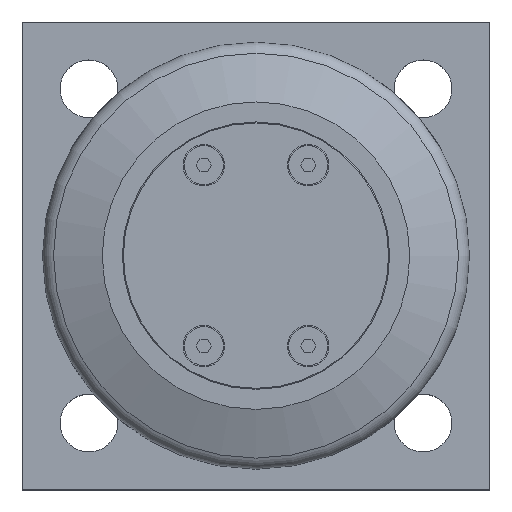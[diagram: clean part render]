
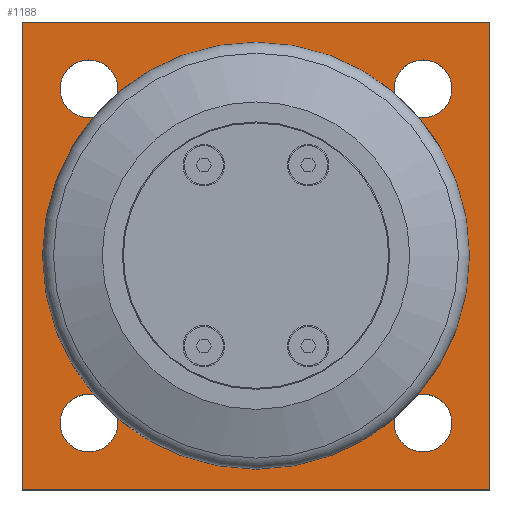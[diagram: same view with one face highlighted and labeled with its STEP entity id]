
A CAD part, top view. The second image highlights one B-rep face of the part: STEP entity #1188.
In plain terms, the highlighted planar face has unit normal (0, 0, 1).
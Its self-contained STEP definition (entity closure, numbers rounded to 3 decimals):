
#37=FACE_BOUND('',#262,.T.);
#38=FACE_BOUND('',#263,.T.);
#39=FACE_BOUND('',#264,.T.);
#40=FACE_BOUND('',#265,.T.);
#41=FACE_BOUND('',#266,.T.);
#92=CIRCLE('',#1321,39.5);
#93=CIRCLE('',#1323,8.647);
#94=CIRCLE('',#1324,8.647);
#95=CIRCLE('',#1325,8.647);
#96=CIRCLE('',#1326,8.647);
#97=CIRCLE('',#1327,8.647);
#98=CIRCLE('',#1328,8.647);
#99=CIRCLE('',#1329,8.647);
#100=CIRCLE('',#1330,8.647);
#178=FACE_OUTER_BOUND('',#261,.T.);
#261=EDGE_LOOP('',(#1027,#1028,#1029,#1030));
#262=EDGE_LOOP('',(#1031,#1032));
#263=EDGE_LOOP('',(#1033,#1034));
#264=EDGE_LOOP('',(#1035,#1036));
#265=EDGE_LOOP('',(#1037,#1038));
#266=EDGE_LOOP('',(#1039));
#367=LINE('',#2015,#470);
#368=LINE('',#2017,#471);
#369=LINE('',#2019,#472);
#370=LINE('',#2020,#473);
#470=VECTOR('',#1643,10.);
#471=VECTOR('',#1644,10.);
#472=VECTOR('',#1645,10.);
#473=VECTOR('',#1646,10.);
#577=VERTEX_POINT('',#2009);
#578=VERTEX_POINT('',#2013);
#579=VERTEX_POINT('',#2014);
#580=VERTEX_POINT('',#2016);
#581=VERTEX_POINT('',#2018);
#582=VERTEX_POINT('',#2021);
#583=VERTEX_POINT('',#2022);
#584=VERTEX_POINT('',#2025);
#585=VERTEX_POINT('',#2026);
#586=VERTEX_POINT('',#2029);
#587=VERTEX_POINT('',#2030);
#588=VERTEX_POINT('',#2033);
#589=VERTEX_POINT('',#2034);
#731=EDGE_CURVE('',#577,#577,#92,.T.);
#732=EDGE_CURVE('',#578,#579,#367,.T.);
#733=EDGE_CURVE('',#580,#578,#368,.T.);
#734=EDGE_CURVE('',#581,#580,#369,.T.);
#735=EDGE_CURVE('',#579,#581,#370,.T.);
#736=EDGE_CURVE('',#582,#583,#93,.T.);
#737=EDGE_CURVE('',#583,#582,#94,.T.);
#738=EDGE_CURVE('',#584,#585,#95,.T.);
#739=EDGE_CURVE('',#585,#584,#96,.T.);
#740=EDGE_CURVE('',#586,#587,#97,.T.);
#741=EDGE_CURVE('',#587,#586,#98,.T.);
#742=EDGE_CURVE('',#588,#589,#99,.T.);
#743=EDGE_CURVE('',#589,#588,#100,.T.);
#1027=ORIENTED_EDGE('',*,*,#732,.F.);
#1028=ORIENTED_EDGE('',*,*,#733,.F.);
#1029=ORIENTED_EDGE('',*,*,#734,.F.);
#1030=ORIENTED_EDGE('',*,*,#735,.F.);
#1031=ORIENTED_EDGE('',*,*,#736,.T.);
#1032=ORIENTED_EDGE('',*,*,#737,.T.);
#1033=ORIENTED_EDGE('',*,*,#738,.T.);
#1034=ORIENTED_EDGE('',*,*,#739,.T.);
#1035=ORIENTED_EDGE('',*,*,#740,.T.);
#1036=ORIENTED_EDGE('',*,*,#741,.T.);
#1037=ORIENTED_EDGE('',*,*,#742,.T.);
#1038=ORIENTED_EDGE('',*,*,#743,.T.);
#1039=ORIENTED_EDGE('',*,*,#731,.T.);
#1124=PLANE('',#1322);
#1188=ADVANCED_FACE('',(#178,#37,#38,#39,#40,#41),#1124,.T.);
#1321=AXIS2_PLACEMENT_3D('',#2011,#1639,#1640);
#1322=AXIS2_PLACEMENT_3D('',#2012,#1641,#1642);
#1323=AXIS2_PLACEMENT_3D('',#2023,#1647,#1648);
#1324=AXIS2_PLACEMENT_3D('',#2024,#1649,#1650);
#1325=AXIS2_PLACEMENT_3D('',#2027,#1651,#1652);
#1326=AXIS2_PLACEMENT_3D('',#2028,#1653,#1654);
#1327=AXIS2_PLACEMENT_3D('',#2031,#1655,#1656);
#1328=AXIS2_PLACEMENT_3D('',#2032,#1657,#1658);
#1329=AXIS2_PLACEMENT_3D('',#2035,#1659,#1660);
#1330=AXIS2_PLACEMENT_3D('',#2036,#1661,#1662);
#1639=DIRECTION('center_axis',(0.,0.,-1.));
#1640=DIRECTION('ref_axis',(0.,-1.,0.));
#1641=DIRECTION('center_axis',(0.,0.,1.));
#1642=DIRECTION('ref_axis',(1.,0.,0.));
#1643=DIRECTION('',(0.,1.,0.));
#1644=DIRECTION('',(-1.,0.,0.));
#1645=DIRECTION('',(0.,-1.,0.));
#1646=DIRECTION('',(1.,0.,0.));
#1647=DIRECTION('center_axis',(0.,0.,-1.));
#1648=DIRECTION('ref_axis',(1.,0.,0.));
#1649=DIRECTION('center_axis',(0.,0.,-1.));
#1650=DIRECTION('ref_axis',(1.,0.,0.));
#1651=DIRECTION('center_axis',(0.,0.,-1.));
#1652=DIRECTION('ref_axis',(1.,0.,0.));
#1653=DIRECTION('center_axis',(0.,0.,-1.));
#1654=DIRECTION('ref_axis',(1.,0.,0.));
#1655=DIRECTION('center_axis',(0.,0.,-1.));
#1656=DIRECTION('ref_axis',(1.,0.,0.));
#1657=DIRECTION('center_axis',(0.,0.,-1.));
#1658=DIRECTION('ref_axis',(1.,0.,0.));
#1659=DIRECTION('center_axis',(0.,0.,-1.));
#1660=DIRECTION('ref_axis',(1.,0.,0.));
#1661=DIRECTION('center_axis',(0.,0.,-1.));
#1662=DIRECTION('ref_axis',(1.,0.,0.));
#2009=CARTESIAN_POINT('',(70.,109.5,20.));
#2011=CARTESIAN_POINT('Origin',(70.,70.,20.));
#2012=CARTESIAN_POINT('Origin',(70.,70.,20.));
#2013=CARTESIAN_POINT('',(0.,0.,20.));
#2014=CARTESIAN_POINT('',(0.,140.,20.));
#2015=CARTESIAN_POINT('',(0.,140.,20.));
#2016=CARTESIAN_POINT('',(140.,0.,20.));
#2017=CARTESIAN_POINT('',(0.,0.,20.));
#2018=CARTESIAN_POINT('',(140.,140.,20.));
#2019=CARTESIAN_POINT('',(140.,0.,20.));
#2020=CARTESIAN_POINT('',(140.,140.,20.));
#2021=CARTESIAN_POINT('',(28.647,20.,20.));
#2022=CARTESIAN_POINT('',(11.353,20.,20.));
#2023=CARTESIAN_POINT('Origin',(20.,20.,20.));
#2024=CARTESIAN_POINT('Origin',(20.,20.,20.));
#2025=CARTESIAN_POINT('',(128.647,20.,20.));
#2026=CARTESIAN_POINT('',(111.353,20.,20.));
#2027=CARTESIAN_POINT('Origin',(120.,20.,20.));
#2028=CARTESIAN_POINT('Origin',(120.,20.,20.));
#2029=CARTESIAN_POINT('',(128.647,120.,20.));
#2030=CARTESIAN_POINT('',(111.353,120.,20.));
#2031=CARTESIAN_POINT('Origin',(120.,120.,20.));
#2032=CARTESIAN_POINT('Origin',(120.,120.,20.));
#2033=CARTESIAN_POINT('',(28.647,120.,20.));
#2034=CARTESIAN_POINT('',(11.353,120.,20.));
#2035=CARTESIAN_POINT('Origin',(20.,120.,20.));
#2036=CARTESIAN_POINT('Origin',(20.,120.,20.));
